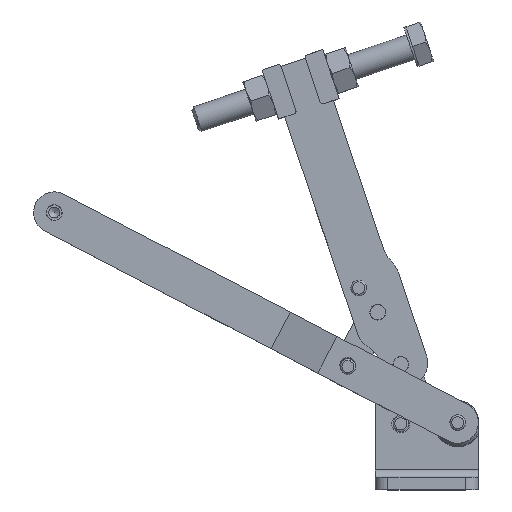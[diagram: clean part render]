
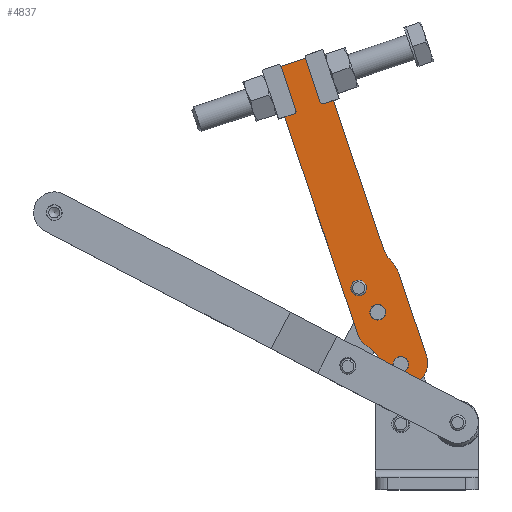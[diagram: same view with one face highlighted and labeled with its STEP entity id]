
A CAD part, top view. The second image highlights one B-rep face of the part: STEP entity #4837.
In plain terms, the highlighted planar face has unit normal (0, 0, 1).
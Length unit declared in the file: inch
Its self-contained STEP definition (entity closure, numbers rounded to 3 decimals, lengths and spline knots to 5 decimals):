
#120=LINE('',#7403,#404);
#122=LINE('',#7406,#406);
#123=LINE('',#7408,#407);
#124=LINE('',#7414,#408);
#125=LINE('',#7418,#409);
#404=VECTOR('',#5872,2.41291);
#406=VECTOR('',#5876,0.49912);
#407=VECTOR('',#5877,3.312);
#408=VECTOR('',#5882,0.15288);
#409=VECTOR('',#5885,1.038);
#727=PLANE('',#5205);
#1028=FACE_BOUND('',#1517,.T.);
#1029=FACE_BOUND('',#1518,.T.);
#1030=FACE_BOUND('',#1519,.T.);
#1179=FACE_OUTER_BOUND('',#1516,.T.);
#1516=EDGE_LOOP('',(#3468,#3469,#3470,#3471,#3472,#3473,#3474,#3475,#3476,
#3477,#3478,#3479));
#1517=EDGE_LOOP('',(#3480));
#1518=EDGE_LOOP('',(#3481));
#1519=EDGE_LOOP('',(#3482));
#1974=CIRCLE('',#5187,0.094);
#1976=CIRCLE('',#5190,0.095);
#1978=CIRCLE('',#5193,0.095);
#1980=CIRCLE('',#5196,0.438);
#1982=CIRCLE('',#5199,0.063);
#1984=CIRCLE('',#5202,0.063);
#1986=CIRCLE('',#5206,0.25);
#1987=CIRCLE('',#5207,0.25);
#1988=CIRCLE('',#5208,0.281);
#1989=CIRCLE('',#5209,0.438);
#2280=VERTEX_POINT('',#7361);
#2282=VERTEX_POINT('',#7366);
#2284=VERTEX_POINT('',#7371);
#2286=VERTEX_POINT('',#7376);
#2287=VERTEX_POINT('',#7377);
#2290=VERTEX_POINT('',#7385);
#2291=VERTEX_POINT('',#7386);
#2294=VERTEX_POINT('',#7394);
#2295=VERTEX_POINT('',#7395);
#2298=VERTEX_POINT('',#7407);
#2299=VERTEX_POINT('',#7409);
#2300=VERTEX_POINT('',#7411);
#2301=VERTEX_POINT('',#7413);
#2302=VERTEX_POINT('',#7415);
#2303=VERTEX_POINT('',#7417);
#2758=EDGE_CURVE('',#2280,#2280,#1974,.T.);
#2760=EDGE_CURVE('',#2282,#2282,#1976,.T.);
#2762=EDGE_CURVE('',#2284,#2284,#1978,.T.);
#2764=EDGE_CURVE('',#2286,#2287,#1980,.T.);
#2768=EDGE_CURVE('',#2290,#2291,#1982,.T.);
#2772=EDGE_CURVE('',#2294,#2295,#1984,.T.);
#2776=EDGE_CURVE('',#2286,#2295,#120,.T.);
#2778=EDGE_CURVE('',#2294,#2291,#122,.T.);
#2779=EDGE_CURVE('',#2290,#2298,#123,.T.);
#2780=EDGE_CURVE('',#2298,#2299,#1986,.T.);
#2781=EDGE_CURVE('',#2299,#2300,#1987,.T.);
#2782=EDGE_CURVE('',#2300,#2301,#124,.T.);
#2783=EDGE_CURVE('',#2301,#2302,#1988,.T.);
#2784=EDGE_CURVE('',#2302,#2303,#125,.T.);
#2785=EDGE_CURVE('',#2303,#2287,#1989,.T.);
#3468=ORIENTED_EDGE('',*,*,#2772,.F.);
#3469=ORIENTED_EDGE('',*,*,#2778,.T.);
#3470=ORIENTED_EDGE('',*,*,#2768,.F.);
#3471=ORIENTED_EDGE('',*,*,#2779,.T.);
#3472=ORIENTED_EDGE('',*,*,#2780,.T.);
#3473=ORIENTED_EDGE('',*,*,#2781,.T.);
#3474=ORIENTED_EDGE('',*,*,#2782,.T.);
#3475=ORIENTED_EDGE('',*,*,#2783,.T.);
#3476=ORIENTED_EDGE('',*,*,#2784,.T.);
#3477=ORIENTED_EDGE('',*,*,#2785,.T.);
#3478=ORIENTED_EDGE('',*,*,#2764,.F.);
#3479=ORIENTED_EDGE('',*,*,#2776,.T.);
#3480=ORIENTED_EDGE('',*,*,#2762,.T.);
#3481=ORIENTED_EDGE('',*,*,#2760,.T.);
#3482=ORIENTED_EDGE('',*,*,#2758,.T.);
#4837=ADVANCED_FACE('',(#1179,#1028,#1029,#1030),#727,.F.);
#5187=AXIS2_PLACEMENT_3D('',#7362,#5830,#5831);
#5190=AXIS2_PLACEMENT_3D('',#7367,#5836,#5837);
#5193=AXIS2_PLACEMENT_3D('',#7372,#5842,#5843);
#5196=AXIS2_PLACEMENT_3D('',#7378,#5848,#5849);
#5199=AXIS2_PLACEMENT_3D('',#7387,#5856,#5857);
#5202=AXIS2_PLACEMENT_3D('',#7396,#5864,#5865);
#5205=AXIS2_PLACEMENT_3D('',#7405,#5874,#5875);
#5206=AXIS2_PLACEMENT_3D('',#7410,#5878,#5879);
#5207=AXIS2_PLACEMENT_3D('',#7412,#5880,#5881);
#5208=AXIS2_PLACEMENT_3D('',#7416,#5883,#5884);
#5209=AXIS2_PLACEMENT_3D('',#7419,#5886,#5887);
#5830=DIRECTION('center_axis',(0.,0.,
-1.));
#5831=DIRECTION('ref_axis',(-0.32,0.947,0.));
#5836=DIRECTION('center_axis',(0.,0.,
-1.));
#5837=DIRECTION('ref_axis',(-0.32,0.947,0.));
#5842=DIRECTION('center_axis',(0.,0.,
-1.));
#5843=DIRECTION('ref_axis',(-0.32,0.947,0.));
#5848=DIRECTION('center_axis',(0.,0.,
1.));
#5849=DIRECTION('ref_axis',(-0.859,-0.513,0.));
#5856=DIRECTION('center_axis',(0.,0.,
-1.));
#5857=DIRECTION('ref_axis',(-0.896,0.444,0.));
#5864=DIRECTION('center_axis',(0.,0.,
-1.));
#5865=DIRECTION('ref_axis',(0.444,0.896,0.));
#5872=DIRECTION('',(-0.32,0.947,0.));
#5874=DIRECTION('center_axis',(0.,0.,
-1.));
#5875=DIRECTION('ref_axis',(0.32,-0.947,0.));
#5876=DIRECTION('',(-0.947,-0.32,0.));
#5877=DIRECTION('',(0.32,-0.947,0.));
#5878=DIRECTION('center_axis',(0.,0.,
1.));
#5879=DIRECTION('ref_axis',(0.413,0.911,0.));
#5880=DIRECTION('center_axis',(0.,0.,
-1.));
#5881=DIRECTION('ref_axis',(0.503,0.865,0.));
#5882=DIRECTION('',(0.32,-0.947,0.));
#5883=DIRECTION('center_axis',(0.,0.,
1.));
#5884=DIRECTION('ref_axis',(-0.947,-0.32,0.));
#5885=DIRECTION('',(-0.32,0.947,0.));
#5886=DIRECTION('center_axis',(0.,0.,
1.));
#5887=DIRECTION('ref_axis',(-0.597,-0.802,0.));
#7361=CARTESIAN_POINT('',(-1.57154,4.25274,1.13545));
#7362=CARTESIAN_POINT('Origin',(-1.60163,4.34179,1.13545));
#7366=CARTESIAN_POINT('',(-1.0618,3.32827,1.13545));
#7367=CARTESIAN_POINT('Origin',(-1.09221,3.41827,1.13545));
#7371=CARTESIAN_POINT('',(-1.34076,3.96022,1.13545));
#7372=CARTESIAN_POINT('Origin',(-1.37117,4.05022,1.13545));
#7376=CARTESIAN_POINT('',(-1.3031,4.82381,1.13545));
#7377=CARTESIAN_POINT('',(-1.20841,4.66523,1.13545));
#7378=CARTESIAN_POINT('Origin',(-0.88814,4.96401,1.13545));
#7385=CARTESIAN_POINT('',(-2.66769,6.90966,1.13545));
#7386=CARTESIAN_POINT('',(-2.62817,6.98951,1.13545));
#7387=CARTESIAN_POINT('Origin',(-2.60801,6.92983,1.13545));
#7394=CARTESIAN_POINT('',(-2.15532,7.14928,1.13545));
#7395=CARTESIAN_POINT('',(-2.07547,7.10976,1.13545));
#7396=CARTESIAN_POINT('Origin',(-2.13515,7.08959,1.13545));
#7403=CARTESIAN_POINT('',(-1.3031,4.82381,1.13545));
#7405=CARTESIAN_POINT('Origin',(-1.72301,5.16807,1.13545));
#7406=CARTESIAN_POINT('',(-2.15532,7.14928,1.13545));
#7407=CARTESIAN_POINT('',(-1.60752,3.77192,1.13545));
#7408=CARTESIAN_POINT('',(-2.66769,6.90966,1.13545));
#7409=CARTESIAN_POINT('',(-1.47405,3.62432,1.13545));
#7410=CARTESIAN_POINT('Origin',(-1.37068,3.85195,1.13545));
#7411=CARTESIAN_POINT('',(-1.36283,3.4882,1.13545));
#7412=CARTESIAN_POINT('Origin',(-1.59968,3.40818,1.13545));
#7413=CARTESIAN_POINT('',(-1.31389,3.34336,1.13545));
#7414=CARTESIAN_POINT('',(-1.36283,3.4882,1.13545));
#7415=CARTESIAN_POINT('',(-0.78146,3.52326,1.13545));
#7416=CARTESIAN_POINT('Origin',(-1.04768,3.43331,1.13545));
#7417=CARTESIAN_POINT('',(-1.11373,4.50664,1.13545));
#7418=CARTESIAN_POINT('',(-0.78146,3.52326,1.13545));
#7419=CARTESIAN_POINT('Origin',(-1.52868,4.36644,1.13545));
